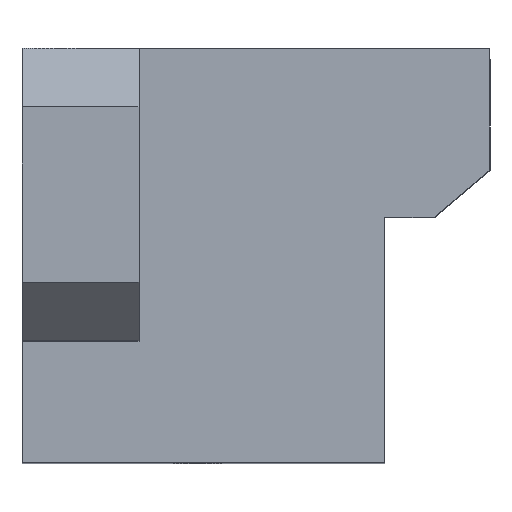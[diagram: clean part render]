
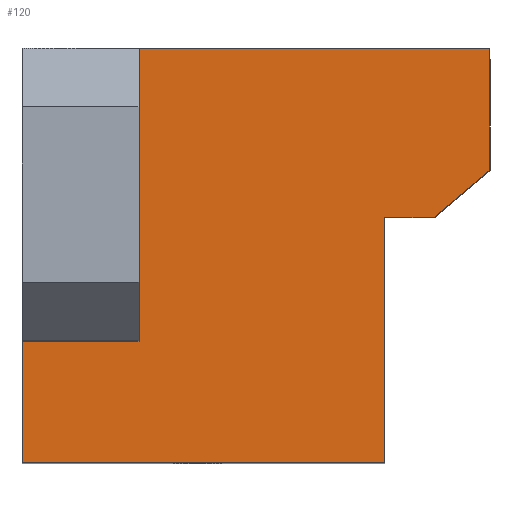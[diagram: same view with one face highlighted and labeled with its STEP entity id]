
A CAD part, top view. The second image highlights one B-rep face of the part: STEP entity #120.
In plain terms, the highlighted planar face has unit normal (0, 0, 1).
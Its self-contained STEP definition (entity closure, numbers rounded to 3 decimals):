
#77 = VECTOR ( 'NONE', #1427, 1000. ) ;
#87 = LINE ( 'NONE', #1533, #601 ) ;
#120 = ADVANCED_FACE ( 'NONE', ( #970 ), #2209, .T. ) ;
#128 = CARTESIAN_POINT ( 'NONE',  ( 20., 3.3, 20. ) ) ;
#177 = ORIENTED_EDGE ( 'NONE', *, *, #1527, .T. ) ;
#186 = EDGE_CURVE ( 'NONE', #2170, #2224, #2171, .T. ) ;
#203 = CARTESIAN_POINT ( 'NONE',  ( 4.669, -5.564, 20. ) ) ;
#306 = ORIENTED_EDGE ( 'NONE', *, *, #1242, .T. ) ;
#325 = CARTESIAN_POINT ( 'NONE',  ( 11., 3.3, 20. ) ) ;
#336 = EDGE_CURVE ( 'NONE', #483, #630, #1017, .T. ) ;
#352 = EDGE_CURVE ( 'NONE', #630, #1303, #547, .T. ) ;
#362 = VERTEX_POINT ( 'NONE', #2194 ) ;
#377 = CARTESIAN_POINT ( 'NONE',  ( 20., 17.7, 20. ) ) ;
#386 = VECTOR ( 'NONE', #1452, 1000. ) ;
#401 = CARTESIAN_POINT ( 'NONE',  ( -20., -17.7, 20. ) ) ;
#410 = EDGE_LOOP ( 'NONE', ( #1420, #177, #1562, #1265, #306, #911, #1981, #1903, #819, #1597 ) ) ;
#411 = EDGE_CURVE ( 'NONE', #1916, #362, #838, .T. ) ;
#447 = CARTESIAN_POINT ( 'NONE',  ( 20., 17.7, 20. ) ) ;
#481 = CARTESIAN_POINT ( 'NONE',  ( -20., 17.7, 20. ) ) ;
#483 = VERTEX_POINT ( 'NONE', #1772 ) ;
#547 = LINE ( 'NONE', #481, #1422 ) ;
#570 = VERTEX_POINT ( 'NONE', #2105 ) ;
#591 = CARTESIAN_POINT ( 'NONE',  ( -20., -17.7, 20. ) ) ;
#601 = VECTOR ( 'NONE', #816, 1000. ) ;
#622 = VECTOR ( 'NONE', #1744, 1000. ) ;
#630 = VERTEX_POINT ( 'NONE', #377 ) ;
#661 = CARTESIAN_POINT ( 'NONE',  ( -10., -7.3, 20. ) ) ;
#694 = CARTESIAN_POINT ( 'NONE',  ( 11., -17.7, 20. ) ) ;
#786 = EDGE_CURVE ( 'NONE', #2224, #1567, #87, .T. ) ;
#816 = DIRECTION ( 'NONE',  ( 0., -1., 0. ) ) ;
#819 = ORIENTED_EDGE ( 'NONE', *, *, #2183, .T. ) ;
#823 = DIRECTION ( 'NONE',  ( 1., 0., 0. ) ) ;
#838 = LINE ( 'NONE', #921, #386 ) ;
#872 = AXIS2_PLACEMENT_3D ( 'NONE', #1541, #2048, #823 ) ;
#877 = DIRECTION ( 'NONE',  ( 0., -1., 0. ) ) ;
#911 = ORIENTED_EDGE ( 'NONE', *, *, #1623, .T. ) ;
#921 = CARTESIAN_POINT ( 'NONE',  ( -10., -7.3, 20. ) ) ;
#970 = FACE_OUTER_BOUND ( 'NONE', #410, .T. ) ;
#1017 = LINE ( 'NONE', #447, #1887 ) ;
#1086 = LINE ( 'NONE', #1272, #622 ) ;
#1163 = LINE ( 'NONE', #591, #1635 ) ;
#1242 = EDGE_CURVE ( 'NONE', #1303, #570, #1491, .T. ) ;
#1247 = LINE ( 'NONE', #1400, #2104 ) ;
#1265 = ORIENTED_EDGE ( 'NONE', *, *, #352, .T. ) ;
#1266 = VECTOR ( 'NONE', #2033, 1000. ) ;
#1272 = CARTESIAN_POINT ( 'NONE',  ( -20., 17.7, 20. ) ) ;
#1303 = VERTEX_POINT ( 'NONE', #1619 ) ;
#1387 = EDGE_CURVE ( 'NONE', #362, #2083, #1086, .T. ) ;
#1397 = DIRECTION ( 'NONE',  ( 0., -1., 0. ) ) ;
#1400 = CARTESIAN_POINT ( 'NONE',  ( -10., 17.7, 20. ) ) ;
#1420 = ORIENTED_EDGE ( 'NONE', *, *, #186, .F. ) ;
#1422 = VECTOR ( 'NONE', #1525, 1000. ) ;
#1427 = DIRECTION ( 'NONE',  ( 0.766, 0.643, 0. ) ) ;
#1452 = DIRECTION ( 'NONE',  ( -1., 0., 0. ) ) ;
#1491 = LINE ( 'NONE', #1930, #2000 ) ;
#1525 = DIRECTION ( 'NONE',  ( -1., 0., 0. ) ) ;
#1527 = EDGE_CURVE ( 'NONE', #2170, #483, #1878, .T. ) ;
#1533 = CARTESIAN_POINT ( 'NONE',  ( 11., -17.7, 20. ) ) ;
#1541 = CARTESIAN_POINT ( 'NONE',  ( 0., 0., 20. ) ) ;
#1562 = ORIENTED_EDGE ( 'NONE', *, *, #336, .T. ) ;
#1567 = VERTEX_POINT ( 'NONE', #694 ) ;
#1597 = ORIENTED_EDGE ( 'NONE', *, *, #786, .F. ) ;
#1619 = CARTESIAN_POINT ( 'NONE',  ( -10., 17.7, 20. ) ) ;
#1623 = EDGE_CURVE ( 'NONE', #570, #1916, #1247, .T. ) ;
#1635 = VECTOR ( 'NONE', #1816, 1000. ) ;
#1697 = DIRECTION ( 'NONE',  ( 0., 1., 0. ) ) ;
#1744 = DIRECTION ( 'NONE',  ( 0., -1., 0. ) ) ;
#1772 = CARTESIAN_POINT ( 'NONE',  ( 20., 7.3, 20. ) ) ;
#1816 = DIRECTION ( 'NONE',  ( 1., 0., 0. ) ) ;
#1878 = LINE ( 'NONE', #203, #77 ) ;
#1887 = VECTOR ( 'NONE', #1697, 1000. ) ;
#1903 = ORIENTED_EDGE ( 'NONE', *, *, #1387, .T. ) ;
#1916 = VERTEX_POINT ( 'NONE', #661 ) ;
#1930 = CARTESIAN_POINT ( 'NONE',  ( -10., 17.7, 20. ) ) ;
#1981 = ORIENTED_EDGE ( 'NONE', *, *, #411, .T. ) ;
#2000 = VECTOR ( 'NONE', #1397, 1000. ) ;
#2033 = DIRECTION ( 'NONE',  ( -1., 0., 0. ) ) ;
#2048 = DIRECTION ( 'NONE',  ( 0., 0., 1. ) ) ;
#2083 = VERTEX_POINT ( 'NONE', #401 ) ;
#2104 = VECTOR ( 'NONE', #877, 1000. ) ;
#2105 = CARTESIAN_POINT ( 'NONE',  ( -10., 2.7, 20. ) ) ;
#2137 = CARTESIAN_POINT ( 'NONE',  ( 15.233, 3.3, 20. ) ) ;
#2170 = VERTEX_POINT ( 'NONE', #2137 ) ;
#2171 = LINE ( 'NONE', #128, #1266 ) ;
#2183 = EDGE_CURVE ( 'NONE', #2083, #1567, #1163, .T. ) ;
#2194 = CARTESIAN_POINT ( 'NONE',  ( -20., -7.3, 20. ) ) ;
#2209 = PLANE ( 'NONE',  #872 ) ;
#2224 = VERTEX_POINT ( 'NONE', #325 ) ;
